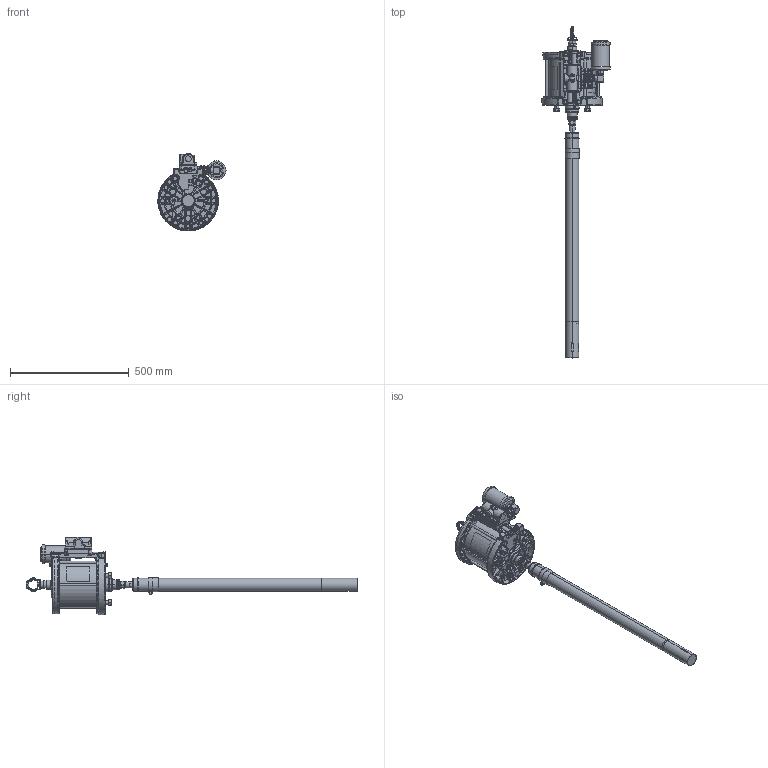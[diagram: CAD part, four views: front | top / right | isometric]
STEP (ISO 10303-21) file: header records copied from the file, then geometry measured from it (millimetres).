
FILE_DESCRIPTION((''),'2;1');
FILE_NAME('24W337-EN-L_PRT','2022-02-14T12:12:07',('qtmwp1'),(''),'CREO PARAMETRIC BY PTC INC, 2021072','CREO PARAMETRIC BY PTC INC, 2021072','');
FILE_SCHEMA(('CONFIG_CONTROL_DESIGN'));
Length unit declared in the file: inch
Products named in the file (1): 24W337-EN-L_PRT
Bounding box: 287.06 x 1395.92 x 327.61 mm (x, y, z)
Surface area: 925244.4 mm2 (no closed solid volume)
Topology: 0 solids, 309 shells, 1860 faces, 9246 edges, 7483 vertices
Faces by surface type: plane 604, cylinder 430, cone 356, bspline 250, torus 218, sphere 2
Entity records: 113570 total; most frequent: CARTESIAN_POINT 51423, ORIENTED_EDGE 11324, DIRECTION 10747, EDGE_CURVE 9244, VERTEX_POINT 7483, B_SPLINE_CURVE_WITH_KNOTS 4036, AXIS2_PLACEMENT_3D 3929, VECTOR 2889
